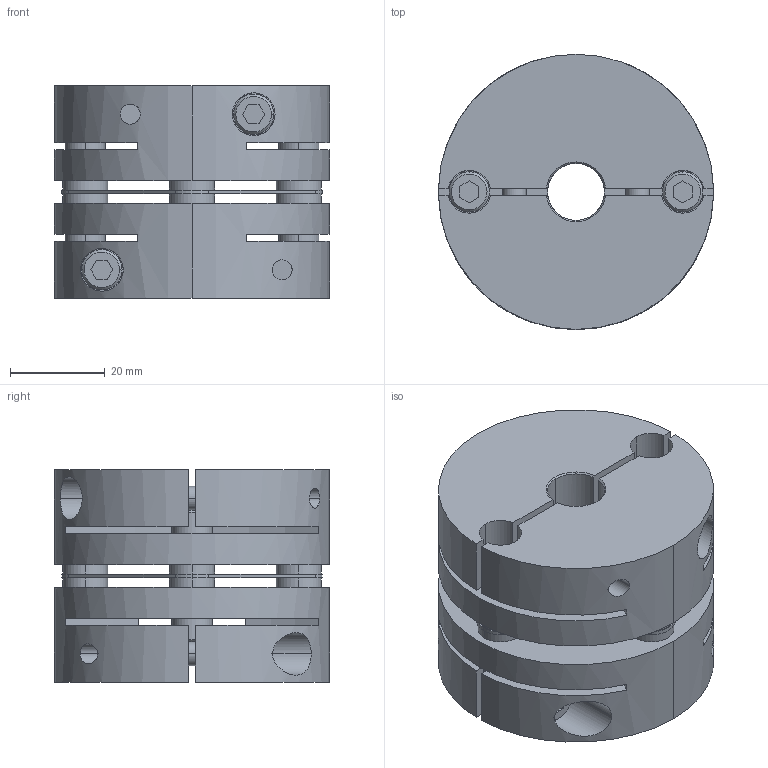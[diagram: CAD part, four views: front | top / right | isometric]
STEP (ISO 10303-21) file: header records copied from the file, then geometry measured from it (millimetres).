
FILE_DESCRIPTION((''),'2;1');
FILE_NAME('LAS-58C-12×25.stp','2015-10-15T14:44:30',(''),(''),'AutoCAD STEP 2000i','AutoCAD 2000i',', , ');
FILE_SCHEMA(('CONFIG_CONTROL_DESIGN'));
Length unit declared in the file: millimetre
Products named in the file (6): LAS-58C-12×19; 忣兜1; LA-5802-D19; LA-5802-D12-1; LA-5802-D12; LAS58-ITA
Assembly tree (5 placements, depth 2):
  LAS-58C-12×19
    忣兜1
    LA-5802-D19
    LA-5802-D12-1
    LA-5802-D12
    LAS58-ITA
Bounding box: 58 x 58 x 44.8 mm (x, y, z)
Volume: 84550.1 mm3; surface area: 32909.6 mm2
Topology: 1 solids, 1 shells, 238 faces, 618 edges, 404 vertices
Faces by surface type: plane 114, cylinder 96, cone 28
Entity records: 8213 total; most frequent: CARTESIAN_POINT 1988, DIRECTION 1316, ORIENTED_EDGE 1240, EDGE_CURVE 620, AXIS2_PLACEMENT_3D 484, VERTEX_POINT 404, VECTOR 348, LINE 348
